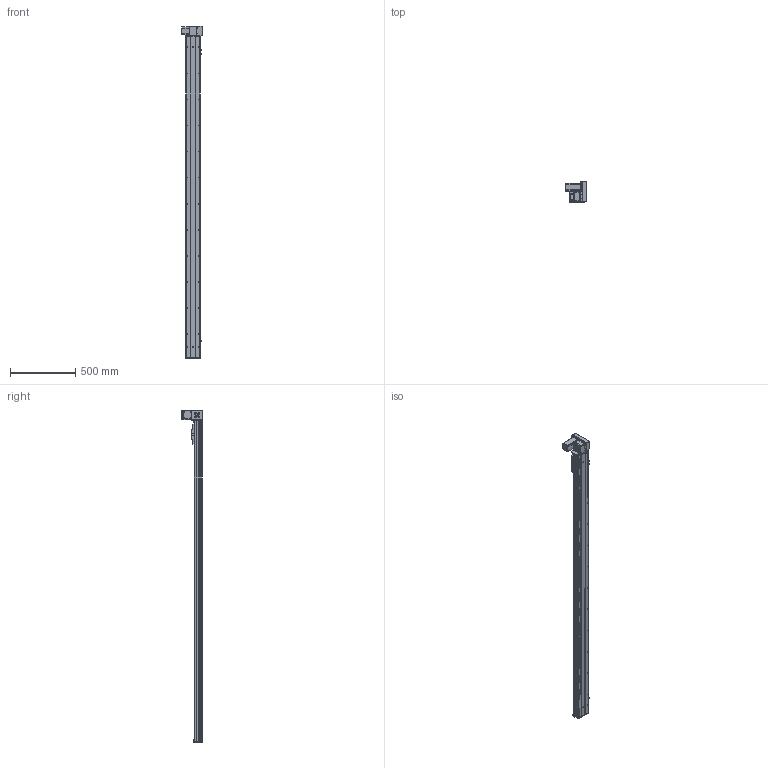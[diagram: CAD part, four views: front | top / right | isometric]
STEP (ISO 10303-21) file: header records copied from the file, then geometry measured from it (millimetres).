
FILE_DESCRIPTION (( 'STEP AP203' ), '1' );
FILE_NAME ('Y10CB-D90-S2200-UR-P400W.STEP', '2020-02-16T04:08:13', ( '微软用户' ), ( '微软中国' ), 'SwSTEP 2.0', 'SolidWorks 2017', '' );
FILE_SCHEMA (( 'CONFIG_CONTROL_DESIGN' ));
Length unit declared in the file: millimetre
Products named in the file (18): 00B-俋欶BM--; Y10CB- 掛极耜裔啣-毀---; 0CB-雄赽釱---; Y10CB-D90-S2200-UR-P400W; Y10C---詩湍揤啣; 0Cb-俋欶---; 10CB9-掛极; Y10B-々湍喘謫眊楊擘啣--; 10CB-耜裔; 0B-萇儂楊擘啣; Y135C-陔俋离換覜結え-; san松下电机400不带刹车----; Y100-135俋离換覜ん--; 0B-源倛裔啣; Y10B--々湍喘謫眊--666; 0B-埴倛裔啣; Y10B-耜蚾蟀諉啣----; 10CB-詩湍-
Assembly tree (21 placements, depth 2):
  Y10CB-D90-S2200-UR-P400W
    0CB-雄赽釱---
    0Cb-俋欶---
    Y10B-々湍喘謫眊楊擘啣--
    0B-萇儂楊擘啣
    san松下电机400不带刹车----
    0B-源倛裔啣
    0B-埴倛裔啣
    10CB-詩湍-
    Y10CB- 掛极耜裔啣-毀---  x2
    Y10C---詩湍揤啣  x2
    10CB9-掛极
    10CB-耜裔
    Y135C-陔俋离換覜結え-
    Y100-135俋离換覜ん--  x3
    Y10B--々湍喘謫眊--666
    Y10B-耜蚾蟀諉啣----
    00B-俋欶BM--
Bounding box: 157 x 155.5 x 2546 mm (x, y, z)
Volume: 5229843 mm3; surface area: 2468022.4 mm2
Topology: 21 solids, 21 shells, 1062 faces, 2883 edges, 1874 vertices
Faces by surface type: cylinder 549, plane 489, cone 24
Entity records: 33912 total; most frequent: CARTESIAN_POINT 6357, DIRECTION 5406, ORIENTED_EDGE 5236, EDGE_CURVE 2618, AXIS2_PLACEMENT_3D 1933, VERTEX_POINT 1700, VECTOR 1540, LINE 1540
